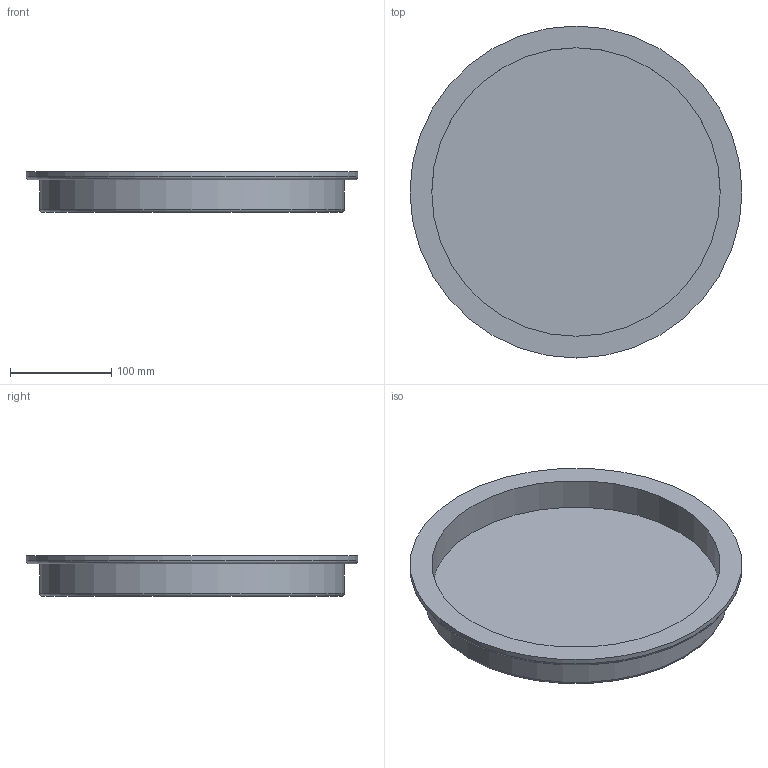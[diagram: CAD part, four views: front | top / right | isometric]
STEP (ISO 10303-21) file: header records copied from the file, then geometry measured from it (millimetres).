
FILE_DESCRIPTION((''),'2;1');
FILE_NAME('U:\Wolfgang\Marcel-3D\fertig\Kapitel 4\3001140.stp','2011-04-21T08:25:50',('TK1'),(''),'Autodesk Inventor 2010','Autodesk Inventor 2010','');
FILE_SCHEMA(('AUTOMOTIVE_DESIGN { 1 0 10303 214 1 1 1 1 }'));
Length unit declared in the file: millimetre
Products named in the file (1): 3001140
Bounding box: 328 x 328 x 40 mm (x, y, z)
Volume: 907814.5 mm3; surface area: 233594.8 mm2
Topology: 1 solids, 1 shells, 9 faces, 13 edges, 8 vertices
Faces by surface type: plane 4, cylinder 3, torus 2
Full cylindrical faces by diameter (mm): 285 x1, 301 x1, 328 x1
Entity records: 200 total; most frequent: DIRECTION 36, CARTESIAN_POINT 26, AXIS2_PLACEMENT_3D 18, ORIENTED_EDGE 16, EDGE_LOOP 16, FACE_OUTER_BOUND 9, ADVANCED_FACE 9, VERTEX_POINT 8
